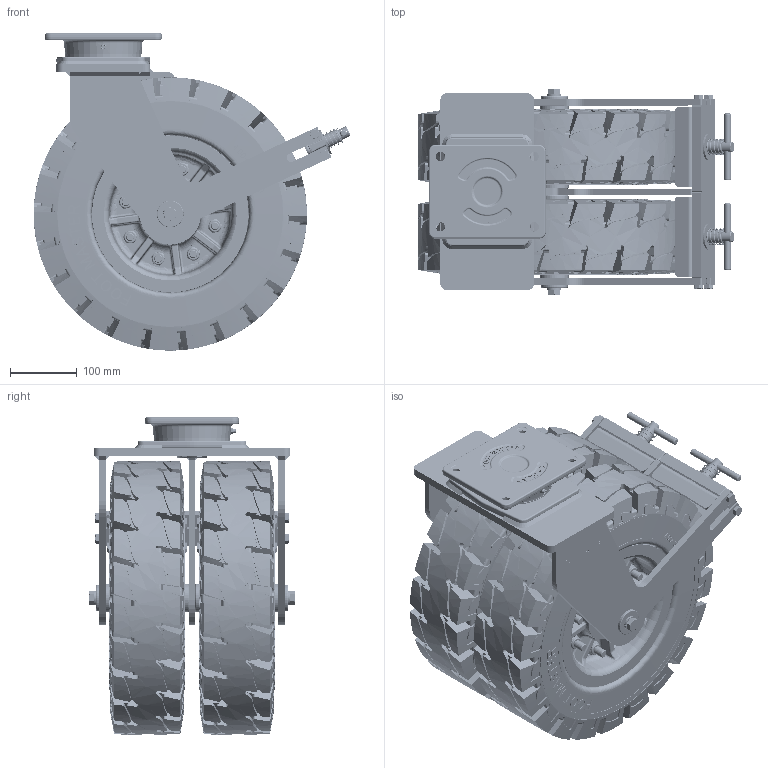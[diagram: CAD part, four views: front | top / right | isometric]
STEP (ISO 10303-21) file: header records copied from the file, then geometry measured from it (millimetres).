
FILE_DESCRIPTION(/* description */ (''),/* implementation_level */ '2;1');
FILE_NAME(/* name */ '\\192.168.10.38\지덕공유\1.기술연구소\2.연구개발 진행중\121.Solidtire caster_2024.11.22\제품설계\홈페이지용 도면\3D\GT-400\66.GTD-400-BSF-TRD.stp',/* time_stamp */ '2025-09-19T13:36:41+09:00',/* author */ ('admin'),/* organization */ (''),/* preprocessor_version */ 'ST-DEVELOPER v18.1',/* originating_system */ 'Autodesk Inventor 2021',/* authorisation */ '');
FILE_SCHEMA (('AUTOMOTIVE_DESIGN { 1 0 10303 214 3 1 1 }'));
Products named in the file (1): 66.GTD-400-BSF-TIRE-Rev01_2025.09.18_Shrinkwrap_1
Bounding box: 472.83 x 307 x 473.41 mm (x, y, z)
Volume: 26565925.8 mm3; surface area: 1631245.1 mm2
Topology: 3 solids, 3 shells, 7263 faces, 20043 edges, 13175 vertices
Faces by surface type: bspline 2574, plane 2149, cylinder 1364, cone 727, torus 448, sphere 1
Full cylindrical faces by diameter (mm): 1 x2, 6 x1, 10.2 x2, 12 x16, 14 x4, 16 x4, 18.5 x16, 20 x2, 24 x18, 40 x4, 42.7 x4, 113 x1, 114 x1, 258.997 x4, 317.998 x4, 333.998 x4, 336.998 x4
Entity records: 357050 total; most frequent: CARTESIAN_POINT 191939, ORIENTED_EDGE 40082, DIRECTION 22122, EDGE_CURVE 20041, VERTEX_POINT 13175, B_SPLINE_CURVE_WITH_KNOTS 9158, AXIS2_PLACEMENT_3D 8069, EDGE_LOOP 7698
